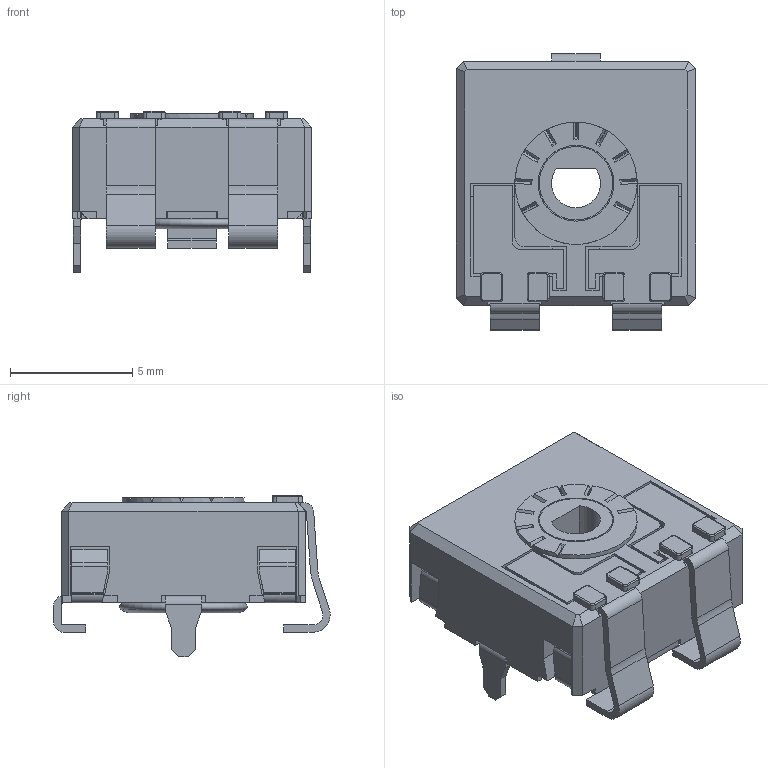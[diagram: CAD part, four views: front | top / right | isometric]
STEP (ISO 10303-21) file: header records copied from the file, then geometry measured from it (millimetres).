
FILE_DESCRIPTION(/* description */ (''),/* implementation_level */ '2;1');
FILE_NAME(/* name */ 'COMCA9DVSMD CY.stp',/* time_stamp */ '2026-03-30T17:18:25+02:00',/* author */ ('CEM'),/* organization */ (''),/* preprocessor_version */ 'ST-DEVELOPER v20.1',/* originating_system */ 'Autodesk Inventor 2026',/* authorisation */ '');
FILE_SCHEMA (('AUTOMOTIVE_DESIGN { 1 0 10303 214 3 1 1 }'));
Length unit declared in the file: millimetre
Products named in the file (1): COMCA9DVSMD CY
Bounding box: 9.8 x 11.3 x 6.6 mm (x, y, z)
Volume: 249.2 mm3; surface area: 849.6 mm2
Topology: 2 solids, 2 shells, 534 faces, 1527 edges, 971 vertices
Faces by surface type: plane 415, cylinder 83, torus 19, cone 17
Full cylindrical faces by diameter (mm): 3 x1, 3.1 x1, 4 x1, 4.8 x1, 5 x1
Entity records: 17467 total; most frequent: CARTESIAN_POINT 3091, ORIENTED_EDGE 3054, DIRECTION 2842, EDGE_CURVE 1527, LINE 1226, VECTOR 1226, VERTEX_POINT 971, AXIS2_PLACEMENT_3D 808
